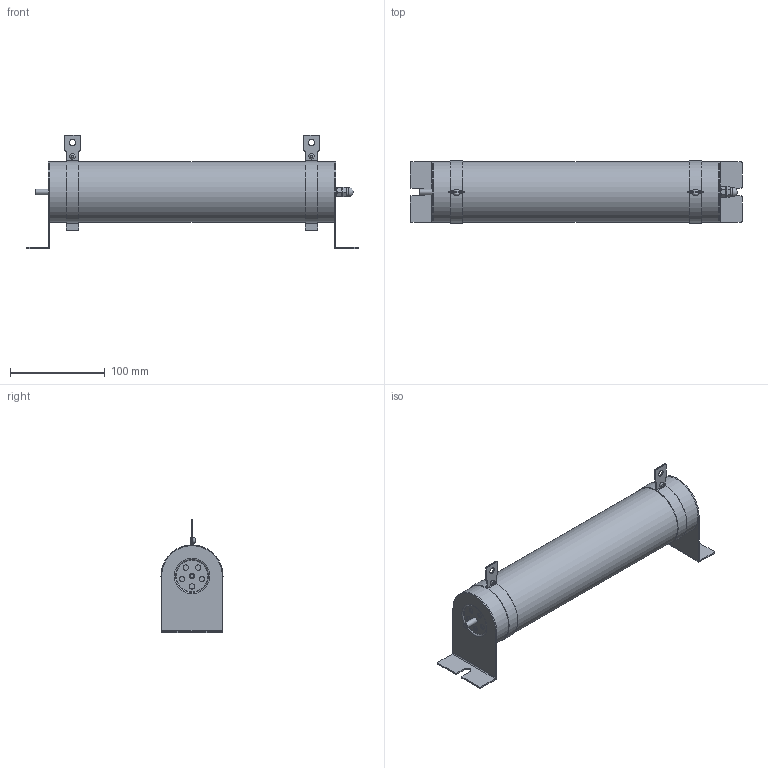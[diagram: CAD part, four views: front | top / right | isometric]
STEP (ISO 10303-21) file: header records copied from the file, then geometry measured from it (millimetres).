
FILE_DESCRIPTION(('STEP AP203'), '1');
FILE_NAME('Ðåçèñòîð òîðìîçíîé _ 1200 Âò 75 Îì', '', ('UNSPECIFIED'), ('UNSPECIFIED'), 'C3D Converter', 'C3D Toolkit', '');
FILE_SCHEMA(('CONFIG_CONTROL_DESIGN'));
Length unit declared in the file: millimetre
Products named in the file (16): 1200 Вт 75 Ом; РТ 1200 Вт 75 Ом; ГОСТ 22032-76; DIN 125 (A); DIN 127 (A); DIN 934; ГОСТ 11860-85; DIN 7337
Assembly tree (19 placements, depth 3):
  1200 Вт 75 Ом
    РТ 1200 Вт 75 Ом
    РТ 1200 Вт 75 Ом  x2
    ГОСТ 22032-76  x2
      (unnamed)
    DIN 125 (A)
      (unnamed)
    DIN 127 (A)
      (unnamed)
    DIN 934
      (unnamed)
    ГОСТ 11860-85
      (unnamed)
    РТ 1200 Вт 75 Ом  x2
    DIN 7337  x2
      (unnamed)
Bounding box: 350 x 65.5 x 120 mm (x, y, z)
Volume: 985150.8 mm3; surface area: 113842.7 mm2
Topology: 15 solids, 15 shells, 289 faces, 634 edges, 387 vertices
Faces by surface type: plane 144, cylinder 110, cone 22, torus 12, sphere 1
Full cylindrical faces by diameter (mm): 2.15 x2, 3 x2, 3.5 x4, 4.917 x2, 5.7 x10, 6 x4, 6.4 x1, 6.5 x2, 6.7 x4, 9.5 x1, 12 x1, 35 x2, 64 x1
Entity records: 6946 total; most frequent: CARTESIAN_POINT 1812, DIRECTION 834, ORIENTED_EDGE 670, AXIS2_PLACEMENT_3D 345, EDGE_CURVE 335, EDGE_LOOP 244, VERTEX_POINT 227, ADVANCED_FACE 174
